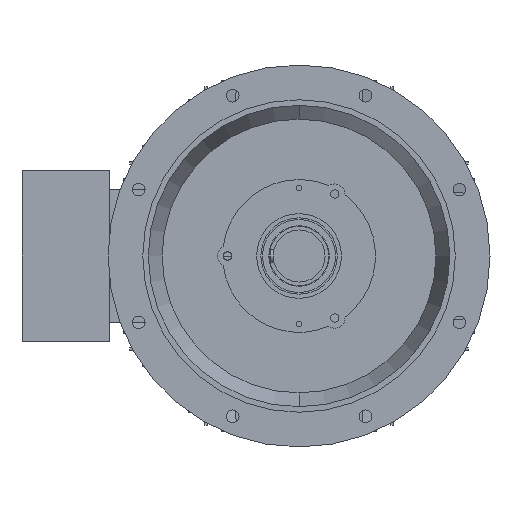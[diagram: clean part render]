
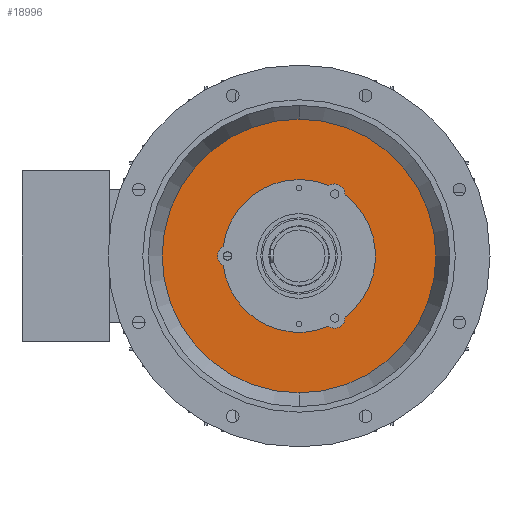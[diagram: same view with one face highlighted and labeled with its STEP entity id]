
A CAD part, left-side view. The second image highlights one B-rep face of the part: STEP entity #18996.
In plain terms, the highlighted planar face has unit normal (-1, 0, 0).
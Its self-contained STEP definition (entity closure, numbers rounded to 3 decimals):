
#66 = CIRCLE ( 'NONE', #1381, 15. ) ;
#146 = CIRCLE ( 'NONE', #1302, 110. ) ;
#148 = CIRCLE ( 'NONE', #1356, 15. ) ;
#187 = CIRCLE ( 'NONE', #1299, 110. ) ;
#699 = FACE_OUTER_BOUND ( 'NONE', #16856, .T. ) ;
#727 = FACE_BOUND ( 'NONE', #16878, .T. ) ;
#1299 = AXIS2_PLACEMENT_3D ( 'NONE', #21899, #21878, #21875 ) ;
#1302 = AXIS2_PLACEMENT_3D ( 'NONE', #21890, #21876, #21891 ) ;
#1350 = AXIS2_PLACEMENT_3D ( 'NONE', #24403, #24400, #24415 ) ;
#1356 = AXIS2_PLACEMENT_3D ( 'NONE', #21924, #21944, #21920 ) ;
#1371 = AXIS2_PLACEMENT_3D ( 'NONE', #21957, #21954, #21967 ) ;
#1381 = AXIS2_PLACEMENT_3D ( 'NONE', #21934, #21943, #22016 ) ;
#1569 = AXIS2_PLACEMENT_3D ( 'NONE', #14819, #14820, #14821 ) ;
#3895 = AXIS2_PLACEMENT_3D ( 'NONE', #5271, #5287, #5270 ) ;
#5270 = DIRECTION ( 'NONE',  ( 0., 0., 1. ) ) ;
#5271 = CARTESIAN_POINT ( 'NONE',  ( 54.5, 0., 0. ) ) ;
#5287 = DIRECTION ( 'NONE',  ( 1., 0., 0. ) ) ;
#5555 = CIRCLE ( 'NONE', #3895, 197.164 ) ;
#7822 = ORIENTED_EDGE ( 'NONE', *, *, #19528, .F. ) ;
#7825 = ORIENTED_EDGE ( 'NONE', *, *, #9327, .F. ) ;
#7839 = ORIENTED_EDGE ( 'NONE', *, *, #19438, .F. ) ;
#7840 = ORIENTED_EDGE ( 'NONE', *, *, #9282, .F. ) ;
#7841 = ORIENTED_EDGE ( 'NONE', *, *, #19471, .F. ) ;
#7842 = ORIENTED_EDGE ( 'NONE', *, *, #9147, .F. ) ;
#7845 = ORIENTED_EDGE ( 'NONE', *, *, #20425, .F. ) ;
#7879 = ORIENTED_EDGE ( 'NONE', *, *, #19432, .F. ) ;
#7880 = ORIENTED_EDGE ( 'NONE', *, *, #19453, .F. ) ;
#7884 = ORIENTED_EDGE ( 'NONE', *, *, #19460, .F. ) ;
#8604 = CIRCLE ( 'NONE', #10153, 15. ) ;
#8656 = CIRCLE ( 'NONE', #10152, 110. ) ;
#9147 = EDGE_CURVE ( 'NONE', #13916, #13965, #18568, .T. ) ;
#9282 = EDGE_CURVE ( 'NONE', #13871, #13928, #8656, .T. ) ;
#9327 = EDGE_CURVE ( 'NONE', #13832, #13866, #8604, .T. ) ;
#10034 = AXIS2_PLACEMENT_3D ( 'NONE', #17366, #17378, #17384 ) ;
#10152 = AXIS2_PLACEMENT_3D ( 'NONE', #17579, #17565, #17586 ) ;
#10153 = AXIS2_PLACEMENT_3D ( 'NONE', #17621, #17622, #17602 ) ;
#12950 = CARTESIAN_POINT ( 'NONE',  ( 54.5, -66.221, 87.834 ) ) ;
#12986 = CARTESIAN_POINT ( 'NONE',  ( 54.5, -51.25, 103.768 ) ) ;
#13061 = CARTESIAN_POINT ( 'NONE',  ( 54.5, -42.956, 101.266 ) ) ;
#13064 = CARTESIAN_POINT ( 'NONE',  ( 54.5, 0., 110. ) ) ;
#13094 = CARTESIAN_POINT ( 'NONE',  ( 54.5, 0., 197.164 ) ) ;
#13102 = CARTESIAN_POINT ( 'NONE',  ( 54.5, 0., -197.164 ) ) ;
#13249 = CARTESIAN_POINT ( 'NONE',  ( 54.5, 109.177, 13.432 ) ) ;
#13303 = CARTESIAN_POINT ( 'NONE',  ( 54.5, 109.177, -13.432 ) ) ;
#13307 = CARTESIAN_POINT ( 'NONE',  ( 54.5, -42.956, -101.266 ) ) ;
#13336 = CARTESIAN_POINT ( 'NONE',  ( 54.5, -66.221, -87.834 ) ) ;
#13832 = VERTEX_POINT ( 'NONE', #12950 ) ;
#13866 = VERTEX_POINT ( 'NONE', #12986 ) ;
#13871 = VERTEX_POINT ( 'NONE', #13061 ) ;
#13916 = VERTEX_POINT ( 'NONE', #13094 ) ;
#13928 = VERTEX_POINT ( 'NONE', #13064 ) ;
#13965 = VERTEX_POINT ( 'NONE', #13102 ) ;
#14015 = VERTEX_POINT ( 'NONE', #13249 ) ;
#14111 = VERTEX_POINT ( 'NONE', #13303 ) ;
#14160 = VERTEX_POINT ( 'NONE', #13307 ) ;
#14176 = VERTEX_POINT ( 'NONE', #13336 ) ;
#14818 = PLANE ( 'NONE',  #1569 ) ;
#14819 = CARTESIAN_POINT ( 'NONE',  ( 54.5, 110., 0. ) ) ;
#14820 = DIRECTION ( 'NONE',  ( 1., 0., 0. ) ) ;
#14821 = DIRECTION ( 'NONE',  ( 0., 0., -1. ) ) ;
#16856 = EDGE_LOOP ( 'NONE', ( #7842, #7845 ) ) ;
#16878 = EDGE_LOOP ( 'NONE', ( #7840, #7880, #7825, #7839, #7884, #7879, #7822, #7841 ) ) ;
#17366 = CARTESIAN_POINT ( 'NONE',  ( 54.5, 0., 0. ) ) ;
#17378 = DIRECTION ( 'NONE',  ( 1., 0., 0. ) ) ;
#17384 = DIRECTION ( 'NONE',  ( 0., 0., 1. ) ) ;
#17565 = DIRECTION ( 'NONE',  ( -1., 0., 0. ) ) ;
#17579 = CARTESIAN_POINT ( 'NONE',  ( 54.5, 0., 0. ) ) ;
#17586 = DIRECTION ( 'NONE',  ( 0., 0., 1. ) ) ;
#17602 = DIRECTION ( 'NONE',  ( 0., 0., 1. ) ) ;
#17621 = CARTESIAN_POINT ( 'NONE',  ( 54.5, -51.25, 88.768 ) ) ;
#17622 = DIRECTION ( 'NONE',  ( -1., 0., 0. ) ) ;
#18568 = CIRCLE ( 'NONE', #10034, 197.164 ) ;
#18996 = ADVANCED_FACE ( 'NONE', ( #699, #727 ), #14818, .F. ) ;
#19432 = EDGE_CURVE ( 'NONE', #14111, #14160, #187, .T. ) ;
#19438 = EDGE_CURVE ( 'NONE', #14176, #13832, #146, .T. ) ;
#19453 = EDGE_CURVE ( 'NONE', #13866, #13871, #148, .T. ) ;
#19460 = EDGE_CURVE ( 'NONE', #14160, #14176, #66, .T. ) ;
#19471 = EDGE_CURVE ( 'NONE', #13928, #14015, #23235, .T. ) ;
#19528 = EDGE_CURVE ( 'NONE', #14015, #14111, #23356, .T. ) ;
#20425 = EDGE_CURVE ( 'NONE', #13965, #13916, #5555, .T. ) ;
#21875 = DIRECTION ( 'NONE',  ( 0., 0., 1. ) ) ;
#21876 = DIRECTION ( 'NONE',  ( -1., 0., 0. ) ) ;
#21878 = DIRECTION ( 'NONE',  ( -1., 0., 0. ) ) ;
#21890 = CARTESIAN_POINT ( 'NONE',  ( 54.5, 0., 0. ) ) ;
#21891 = DIRECTION ( 'NONE',  ( 0., 0., 1. ) ) ;
#21899 = CARTESIAN_POINT ( 'NONE',  ( 54.5, 0., 0. ) ) ;
#21920 = DIRECTION ( 'NONE',  ( 0., 0., 1. ) ) ;
#21924 = CARTESIAN_POINT ( 'NONE',  ( 54.5, -51.25, 88.768 ) ) ;
#21934 = CARTESIAN_POINT ( 'NONE',  ( 54.5, -51.25, -88.768 ) ) ;
#21943 = DIRECTION ( 'NONE',  ( -1., 0., 0. ) ) ;
#21944 = DIRECTION ( 'NONE',  ( -1., 0., 0. ) ) ;
#21954 = DIRECTION ( 'NONE',  ( -1., 0., 0. ) ) ;
#21957 = CARTESIAN_POINT ( 'NONE',  ( 54.5, 0., 0. ) ) ;
#21967 = DIRECTION ( 'NONE',  ( 0., 0., 1. ) ) ;
#22016 = DIRECTION ( 'NONE',  ( 0., 0., 1. ) ) ;
#23235 = CIRCLE ( 'NONE', #1371, 110. ) ;
#23356 = CIRCLE ( 'NONE', #1350, 15. ) ;
#24400 = DIRECTION ( 'NONE',  ( -1., 0., 0. ) ) ;
#24403 = CARTESIAN_POINT ( 'NONE',  ( 54.5, 102.5, 0. ) ) ;
#24415 = DIRECTION ( 'NONE',  ( 0., 0., 1. ) ) ;
